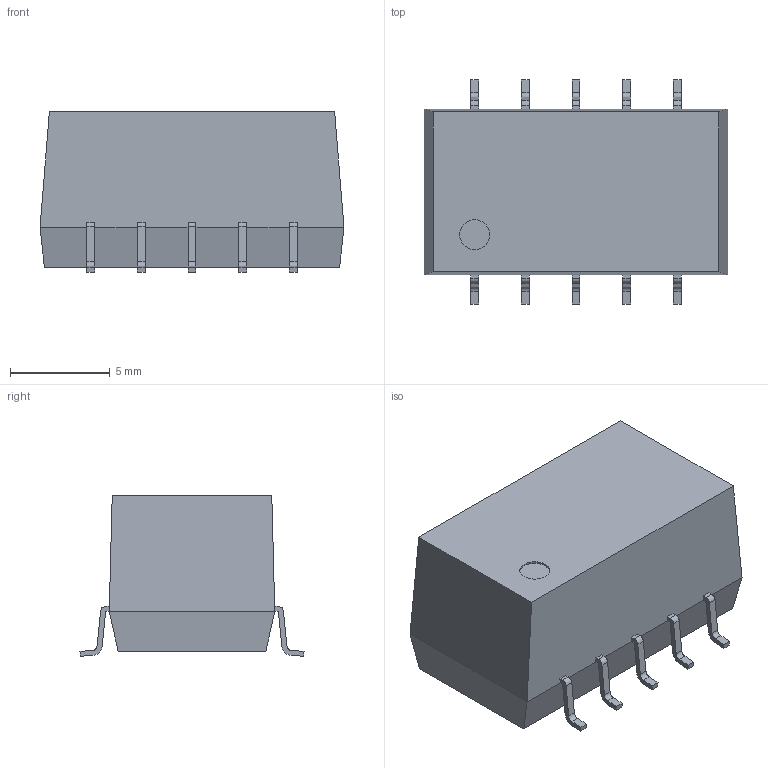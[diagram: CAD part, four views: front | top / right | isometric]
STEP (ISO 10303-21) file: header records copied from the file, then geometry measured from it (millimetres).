
FILE_DESCRIPTION (( 'STEP AP214' ), '1' );
FILE_NAME ('tsm-dual-24Vin.STEP', '2017-10-24T12:05:49', ( '' ), ( '' ), 'SwSTEP 2.0', 'SolidWorks 2013', '' );
FILE_SCHEMA (( 'AUTOMOTIVE_DESIGN' ));
Length unit declared in the file: millimetre
Products named in the file (1): tsm-dual-24Vin
Bounding box: 15.24 x 11.23 x 8.05 mm (x, y, z)
Volume: 937.3 mm3; surface area: 626.6 mm2
Topology: 1 solids, 1 shells, 133 faces, 366 edges, 236 vertices
Faces by surface type: plane 101, cylinder 32
Entity records: 5669 total; most frequent: CARTESIAN_POINT 736, ORIENTED_EDGE 732, DIRECTION 698, EDGE_CURVE 366, VECTOR 302, LINE 302, VERTEX_POINT 236, AXIS2_PLACEMENT_3D 198
